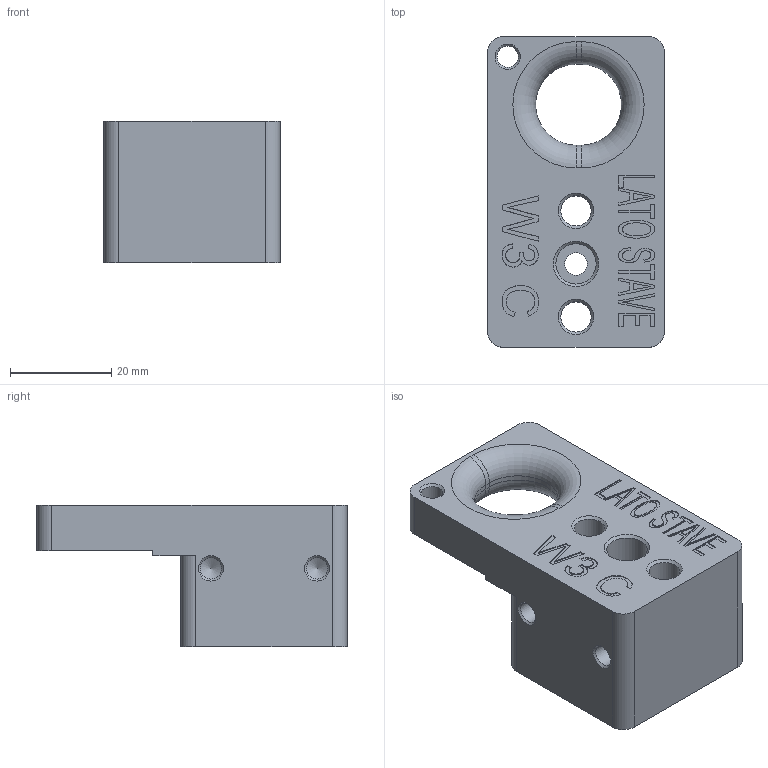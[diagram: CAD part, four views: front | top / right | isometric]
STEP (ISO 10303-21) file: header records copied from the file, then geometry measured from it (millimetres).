
FILE_DESCRIPTION(/* description */ (''),/* implementation_level */ '2;1');
FILE_NAME(/* name */ 'WHEELS-INSERT.19.stp',/* time_stamp */ '2018-10-12T17:23:10+02:00',/* author */ (''),/* organization */ (''),/* preprocessor_version */ 'ST-DEVELOPER v16.7',/* originating_system */ 'SIEMENS PLM Software NX 12.0',/* authorisation */ '');
FILE_SCHEMA (('AP203_CONFIGURATION_CONTROLLED_3D_DESIGN_OF_MECHANICAL_PARTS_AND_ASSEMBLIES_MIM_LF { 1 0 10303 403 2 1 2}'));
Length unit declared in the file: millimetre
Products named in the file (1): turc1934B35Eh6bj
Bounding box: 35 x 61.5 x 28 mm (x, y, z)
Volume: 35809.5 mm3; surface area: 10612.8 mm2
Topology: 1 solids, 1 shells, 170 faces, 447 edges, 295 vertices
Faces by surface type: plane 102, extrusion 26, cylinder 22, cone 16, torus 4
Full cylindrical faces by diameter (mm): 3.3 x1, 4 x2, 4.2 x3, 4.5 x1, 6 x2, 8 x1
Entity records: 5948 total; most frequent: CARTESIAN_POINT 2116, ORIENTED_EDGE 802, DIRECTION 600, EDGE_CURVE 401, VERTEX_POINT 278, EDGE_LOOP 222, B_SPLINE_CURVE_WITH_KNOTS 222, AXIS2_PLACEMENT_3D 216
